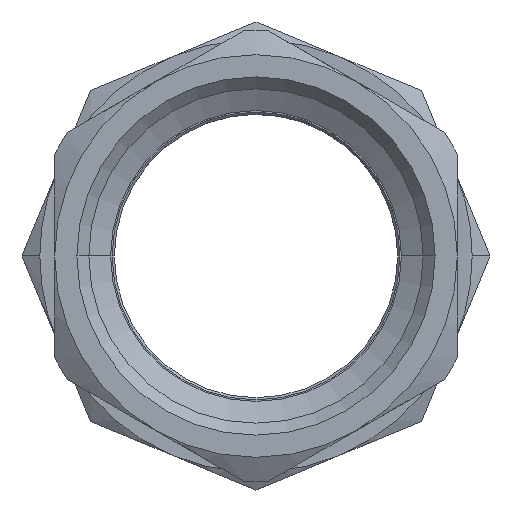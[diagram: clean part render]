
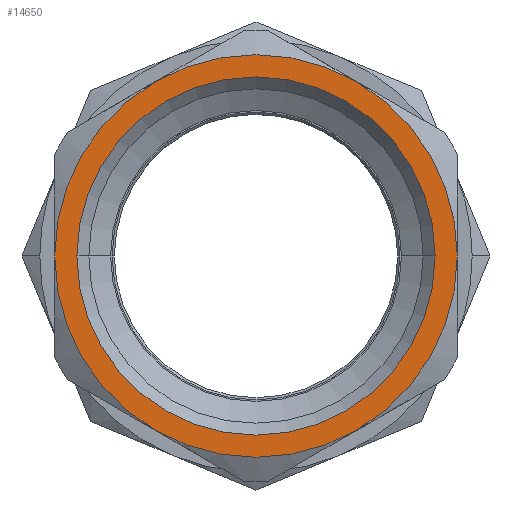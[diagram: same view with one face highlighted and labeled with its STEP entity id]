
A CAD part, front view. The second image highlights one B-rep face of the part: STEP entity #14650.
In plain terms, the highlighted planar face has unit normal (0, -1, 0).
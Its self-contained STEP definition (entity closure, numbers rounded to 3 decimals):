
#1530=CARTESIAN_POINT('',(391.272,-13.397,
23.383));
#1540=VERTEX_POINT('',#1530);
#2590=CARTESIAN_POINT('',(391.272,-13.397,
-23.383));
#2600=VERTEX_POINT('',#2590);
#7680=CARTESIAN_POINT('',(350.772,-13.397,
0.));
#7690=VERTEX_POINT('',#7680);
#7720=CARTESIAN_POINT('',(377.772,-13.397,0.));
#7730=DIRECTION('',(0.,-1.,0.));
#7740=DIRECTION('',(-1.,0.,0.));
#7750=AXIS2_PLACEMENT_3D('',#7720,#7730,#7740);
#7760=CIRCLE('',#7750,27.);
#7770=CARTESIAN_POINT('',(364.272,-13.397,
-23.383));
#7780=VERTEX_POINT('',#7770);
#7790=EDGE_CURVE('',#7690,#7780,#7760,.T.);
#8760=CARTESIAN_POINT('',(401.797,-13.397,
0.));
#8770=VERTEX_POINT('',#8760);
#8930=CARTESIAN_POINT('',(353.747,-13.397,
0.));
#8940=VERTEX_POINT('',#8930);
#8970=CARTESIAN_POINT('',(377.772,-13.397,0.));
#8980=DIRECTION('',(0.,-1.,0.));
#8990=DIRECTION('',(-1.,0.,0.));
#9000=AXIS2_PLACEMENT_3D('',#8970,#8980,#8990);
#9010=CIRCLE('',#9000,24.025);
#9020=EDGE_CURVE('',#8770,#8940,#9010,.T.);
#9250=CARTESIAN_POINT('',(364.272,-13.397,
23.383));
#9260=VERTEX_POINT('',#9250);
#9270=EDGE_CURVE('',#1540,#9260,#7760,.T.);
#11820=CARTESIAN_POINT('',(404.772,-13.397,
0.));
#11830=VERTEX_POINT('',#11820);
#13490=EDGE_CURVE('',#2600,#11830,#7760,.T.);
#14440=CARTESIAN_POINT('',(352.259,-13.397,
0.));
#14450=DIRECTION('',(-0.,-1.,0.));
#14460=DIRECTION('',(-1.,0.,0.));
#14470=AXIS2_PLACEMENT_3D('',#14440,#14450,#14460);
#14480=PLANE('',#14470);
#14490=ORIENTED_EDGE('',*,*,#9270,.T.);
#14500=EDGE_CURVE('',#11830,#1540,#7760,.T.);
#14510=ORIENTED_EDGE('',*,*,#14500,.T.);
#14520=ORIENTED_EDGE('',*,*,#13490,.T.);
#14530=EDGE_CURVE('',#7780,#2600,#7760,.T.);
#14540=ORIENTED_EDGE('',*,*,#14530,.T.);
#14550=ORIENTED_EDGE('',*,*,#7790,.T.);
#14560=EDGE_CURVE('',#9260,#7690,#7760,.T.);
#14570=ORIENTED_EDGE('',*,*,#14560,.T.);
#14580=EDGE_LOOP('',(#14570,#14550,#14540,#14520,#14510,#14490));
#14590=FACE_OUTER_BOUND('',#14580,.T.);
#14600=EDGE_CURVE('',#8940,#8770,#9010,.T.);
#14610=ORIENTED_EDGE('',*,*,#14600,.F.);
#14620=ORIENTED_EDGE('',*,*,#9020,.F.);
#14630=EDGE_LOOP('',(#14620,#14610));
#14640=FACE_BOUND('',#14630,.T.);
#14650=ADVANCED_FACE('',(#14590,#14640),#14480,.T.);
